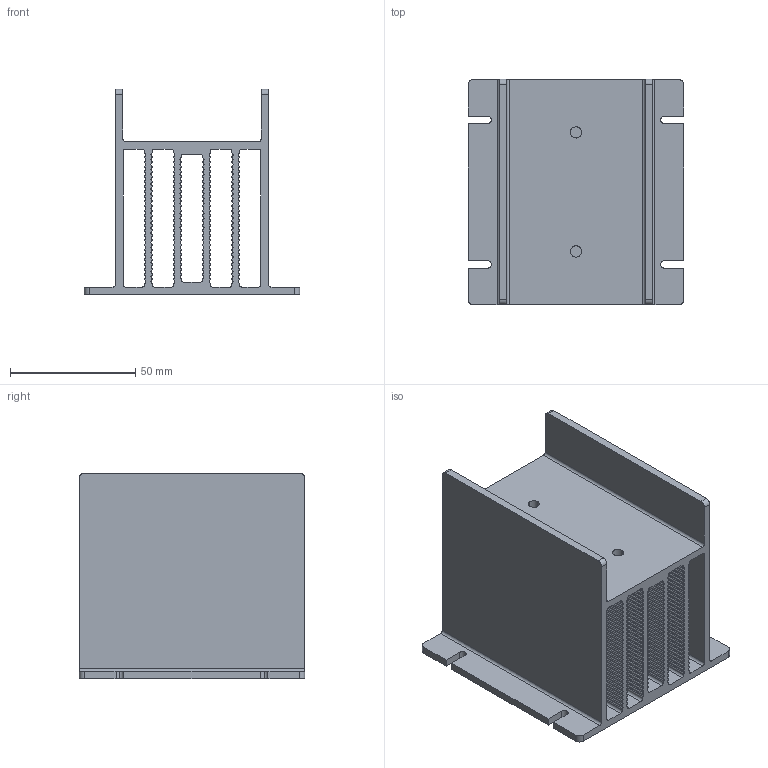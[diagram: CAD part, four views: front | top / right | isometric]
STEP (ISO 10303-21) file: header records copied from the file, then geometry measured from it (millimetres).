
FILE_DESCRIPTION(/* description */ (''),/* implementation_level */ '2;1');
FILE_NAME(/* name */ '中号散热器.stp',/* time_stamp */ '2025-06-18T15:59:23+08:00',/* author */ (''),/* organization */ (''),/* preprocessor_version */ 'ST-DEVELOPER v19.4',/* originating_system */ 'SIEMENS PLM Software NX2306.9141',/* authorisation */ '');
FILE_SCHEMA (('AUTOMOTIVE_DESIGN { 1 0 10303 214 3 1 1 1 }'));
Length unit declared in the file: inch
Products named in the file (1): 中号散热器.step_sldprt_objects
Bounding box: 86 x 90 x 82 mm (x, y, z)
Volume: 134733.4 mm3; surface area: 99007.3 mm2
Topology: 1 solids, 1 shells, 733 faces, 2193 edges, 1462 vertices
Faces by surface type: cylinder 673, plane 44, bspline 16
Entity records: 24153 total; most frequent: CARTESIAN_POINT 9675, ORIENTED_EDGE 4386, EDGE_CURVE 2193, DIRECTION 1645, VERTEX_POINT 1462, EDGE_LOOP 751, ADVANCED_FACE 733, FACE_OUTER_BOUND 727
